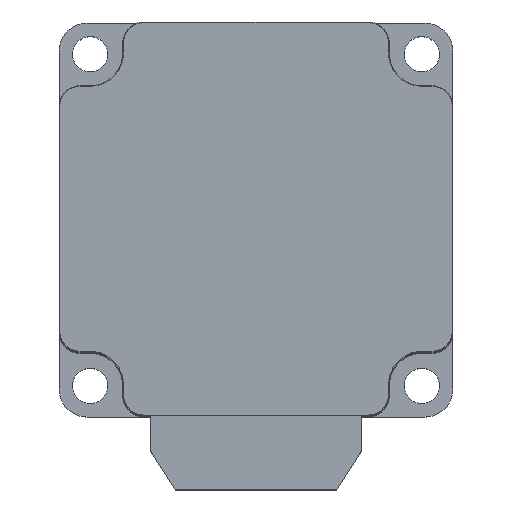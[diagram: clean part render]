
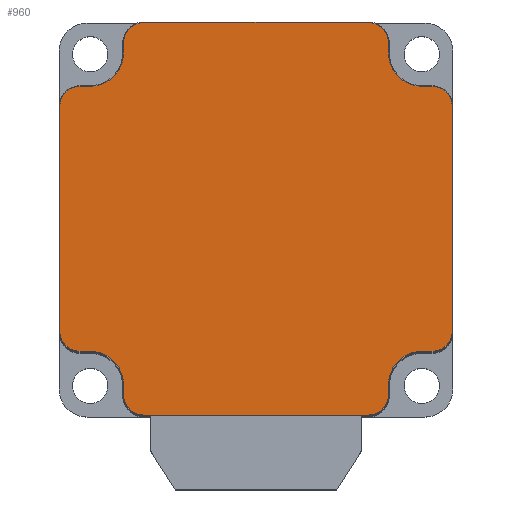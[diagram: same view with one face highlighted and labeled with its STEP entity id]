
A CAD part, top view. The second image highlights one B-rep face of the part: STEP entity #960.
In plain terms, the highlighted planar face has unit normal (0, 0, 1).
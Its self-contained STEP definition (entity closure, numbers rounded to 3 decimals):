
#960=ADVANCED_FACE('',(#2006),#2008,.T.);
#2006=FACE_BOUND('',#2007,.T.);
#2007=EDGE_LOOP('',(#2812,#2813,#2814,#2815,#2816,#2817,#2818,#2819,#2820,#2821,
#2822,#2823,#2824,#2825,#2826,#2827,#2828,#2829,#2830,#2831,#2832,#2833,#2834,#2835));
#2008=PLANE('',#2009);
#2009=AXIS2_PLACEMENT_3D('',#2010,#2011,#2012);
#2010=CARTESIAN_POINT('',(0.,0.,116.));
#2011=DIRECTION('',(0.,-0.,1.));
#2012=DIRECTION('',(0.,1.,0.));
#2812=ORIENTED_EDGE('',*,*,#3231,.T.);
#2813=ORIENTED_EDGE('',*,*,#3277,.T.);
#2814=ORIENTED_EDGE('',*,*,#3275,.T.);
#2815=ORIENTED_EDGE('',*,*,#3273,.T.);
#2816=ORIENTED_EDGE('',*,*,#3271,.T.);
#2817=ORIENTED_EDGE('',*,*,#3269,.T.);
#2818=ORIENTED_EDGE('',*,*,#3267,.T.);
#2819=ORIENTED_EDGE('',*,*,#3265,.T.);
#2820=ORIENTED_EDGE('',*,*,#3263,.T.);
#2821=ORIENTED_EDGE('',*,*,#3261,.T.);
#2822=ORIENTED_EDGE('',*,*,#3259,.T.);
#2823=ORIENTED_EDGE('',*,*,#3257,.T.);
#2824=ORIENTED_EDGE('',*,*,#3255,.T.);
#2825=ORIENTED_EDGE('',*,*,#3253,.T.);
#2826=ORIENTED_EDGE('',*,*,#3251,.T.);
#2827=ORIENTED_EDGE('',*,*,#3249,.T.);
#2828=ORIENTED_EDGE('',*,*,#3247,.T.);
#2829=ORIENTED_EDGE('',*,*,#3245,.T.);
#2830=ORIENTED_EDGE('',*,*,#3243,.T.);
#2831=ORIENTED_EDGE('',*,*,#3241,.T.);
#2832=ORIENTED_EDGE('',*,*,#3239,.T.);
#2833=ORIENTED_EDGE('',*,*,#3237,.T.);
#2834=ORIENTED_EDGE('',*,*,#3235,.T.);
#2835=ORIENTED_EDGE('',*,*,#3233,.T.);
#3231=EDGE_CURVE('',#3743,#3741,#3744,.T.);
#3233=EDGE_CURVE('',#3746,#3743,#3747,.T.);
#3235=EDGE_CURVE('',#3749,#3746,#3750,.T.);
#3237=EDGE_CURVE('',#3752,#3749,#3753,.T.);
#3239=EDGE_CURVE('',#3755,#3752,#3756,.T.);
#3241=EDGE_CURVE('',#3758,#3755,#3759,.T.);
#3243=EDGE_CURVE('',#3761,#3758,#3762,.T.);
#3245=EDGE_CURVE('',#3764,#3761,#3765,.T.);
#3247=EDGE_CURVE('',#3767,#3764,#3768,.T.);
#3249=EDGE_CURVE('',#3770,#3767,#3771,.T.);
#3251=EDGE_CURVE('',#3773,#3770,#3774,.T.);
#3253=EDGE_CURVE('',#3776,#3773,#3777,.T.);
#3255=EDGE_CURVE('',#3779,#3776,#3780,.T.);
#3257=EDGE_CURVE('',#3782,#3779,#3783,.T.);
#3259=EDGE_CURVE('',#3785,#3782,#3786,.T.);
#3261=EDGE_CURVE('',#3788,#3785,#3789,.T.);
#3263=EDGE_CURVE('',#3791,#3788,#3792,.T.);
#3265=EDGE_CURVE('',#3794,#3791,#3795,.T.);
#3267=EDGE_CURVE('',#3797,#3794,#3798,.T.);
#3269=EDGE_CURVE('',#3800,#3797,#3801,.T.);
#3271=EDGE_CURVE('',#3803,#3800,#3804,.T.);
#3273=EDGE_CURVE('',#3806,#3803,#3807,.T.);
#3275=EDGE_CURVE('',#3809,#3806,#3810,.T.);
#3277=EDGE_CURVE('',#3741,#3809,#3812,.T.);
#3741=VERTEX_POINT('',#4882);
#3743=VERTEX_POINT('',#4886);
#3744=CIRCLE('',#4887,2.9);
#3746=VERTEX_POINT('',#4894);
#3747=LINE('',#4895,#4896);
#3749=VERTEX_POINT('',#4901);
#3750=CIRCLE('',#4902,2.9);
#3752=VERTEX_POINT('',#4909);
#3753=LINE('',#4910,#4911);
#3755=VERTEX_POINT('',#4916);
#3756=CIRCLE('',#4917,4.73);
#3758=VERTEX_POINT('',#4924);
#3759=LINE('',#4925,#4926);
#3761=VERTEX_POINT('',#4931);
#3762=CIRCLE('',#4932,2.9);
#3764=VERTEX_POINT('',#4939);
#3765=LINE('',#4940,#4941);
#3767=VERTEX_POINT('',#4946);
#3768=CIRCLE('',#4947,2.9);
#3770=VERTEX_POINT('',#4954);
#3771=LINE('',#4955,#4956);
#3773=VERTEX_POINT('',#4961);
#3774=CIRCLE('',#4962,4.73);
#3776=VERTEX_POINT('',#4969);
#3777=LINE('',#4970,#4971);
#3779=VERTEX_POINT('',#4976);
#3780=CIRCLE('',#4977,2.9);
#3782=VERTEX_POINT('',#4984);
#3783=LINE('',#4985,#4986);
#3785=VERTEX_POINT('',#4991);
#3786=CIRCLE('',#4992,2.9);
#3788=VERTEX_POINT('',#4999);
#3789=LINE('',#5000,#5001);
#3791=VERTEX_POINT('',#5006);
#3792=CIRCLE('',#5007,4.73);
#3794=VERTEX_POINT('',#5014);
#3795=LINE('',#5015,#5016);
#3797=VERTEX_POINT('',#5021);
#3798=CIRCLE('',#5022,2.9);
#3800=VERTEX_POINT('',#5029);
#3801=LINE('',#5030,#5031);
#3803=VERTEX_POINT('',#5036);
#3804=CIRCLE('',#5037,2.9);
#3806=VERTEX_POINT('',#5044);
#3807=LINE('',#5045,#5046);
#3809=VERTEX_POINT('',#5051);
#3810=CIRCLE('',#5052,4.73);
#3812=LINE('',#5059,#5060);
#4882=CARTESIAN_POINT('',(-25.,-18.84,116.));
#4886=CARTESIAN_POINT('',(-27.9,-15.94,116.));
#4887=AXIS2_PLACEMENT_3D('',#4888,#4889,#4890);
#4888=CARTESIAN_POINT('',(-25.,-15.94,116.));
#4889=DIRECTION('',(0.,-0.,1.));
#4890=DIRECTION('',(-1.,0.,0.));
#4894=CARTESIAN_POINT('',(-27.9,15.94,116.));
#4895=CARTESIAN_POINT('',(-27.9,15.94,116.));
#4896=VECTOR('',#4897,1.);
#4897=DIRECTION('',(0.,-1.,0.));
#4901=CARTESIAN_POINT('',(-25.,18.84,116.));
#4902=AXIS2_PLACEMENT_3D('',#4903,#4904,#4905);
#4903=CARTESIAN_POINT('',(-25.,15.94,116.));
#4904=DIRECTION('',(0.,-0.,1.));
#4905=DIRECTION('',(0.,1.,0.));
#4909=CARTESIAN_POINT('',(-23.57,18.84,116.));
#4910=CARTESIAN_POINT('',(-23.57,18.84,116.));
#4911=VECTOR('',#4912,1.);
#4912=DIRECTION('',(-1.,0.,0.));
#4916=CARTESIAN_POINT('',(-18.84,23.57,116.));
#4917=AXIS2_PLACEMENT_3D('',#4918,#4919,#4920);
#4918=CARTESIAN_POINT('',(-23.57,23.57,116.));
#4919=DIRECTION('',(0.,0.,-1.));
#4920=DIRECTION('',(1.,0.,0.));
#4924=CARTESIAN_POINT('',(-18.84,25.,116.));
#4925=CARTESIAN_POINT('',(-18.84,25.,116.));
#4926=VECTOR('',#4927,1.);
#4927=DIRECTION('',(0.,-1.,0.));
#4931=CARTESIAN_POINT('',(-15.94,27.9,116.));
#4932=AXIS2_PLACEMENT_3D('',#4933,#4934,#4935);
#4933=CARTESIAN_POINT('',(-15.94,25.,116.));
#4934=DIRECTION('',(0.,-0.,1.));
#4935=DIRECTION('',(0.,1.,0.));
#4939=CARTESIAN_POINT('',(15.94,27.9,116.));
#4940=CARTESIAN_POINT('',(15.94,27.9,116.));
#4941=VECTOR('',#4942,1.);
#4942=DIRECTION('',(-1.,0.,0.));
#4946=CARTESIAN_POINT('',(18.84,25.,116.));
#4947=AXIS2_PLACEMENT_3D('',#4948,#4949,#4950);
#4948=CARTESIAN_POINT('',(15.94,25.,116.));
#4949=DIRECTION('',(0.,-0.,1.));
#4950=DIRECTION('',(1.,0.,0.));
#4954=CARTESIAN_POINT('',(18.84,23.57,116.));
#4955=CARTESIAN_POINT('',(18.84,23.57,116.));
#4956=VECTOR('',#4957,1.);
#4957=DIRECTION('',(0.,1.,0.));
#4961=CARTESIAN_POINT('',(23.57,18.84,116.));
#4962=AXIS2_PLACEMENT_3D('',#4963,#4964,#4965);
#4963=CARTESIAN_POINT('',(23.57,23.57,116.));
#4964=DIRECTION('',(-0.,0.,-1.));
#4965=DIRECTION('',(0.,-1.,0.));
#4969=CARTESIAN_POINT('',(25.,18.84,116.));
#4970=CARTESIAN_POINT('',(25.,18.84,116.));
#4971=VECTOR('',#4972,1.);
#4972=DIRECTION('',(-1.,0.,0.));
#4976=CARTESIAN_POINT('',(27.9,15.94,116.));
#4977=AXIS2_PLACEMENT_3D('',#4978,#4979,#4980);
#4978=CARTESIAN_POINT('',(25.,15.94,116.));
#4979=DIRECTION('',(0.,-0.,1.));
#4980=DIRECTION('',(1.,0.,0.));
#4984=CARTESIAN_POINT('',(27.9,-15.94,116.));
#4985=CARTESIAN_POINT('',(27.9,-15.94,116.));
#4986=VECTOR('',#4987,1.);
#4987=DIRECTION('',(0.,1.,0.));
#4991=CARTESIAN_POINT('',(25.,-18.84,116.));
#4992=AXIS2_PLACEMENT_3D('',#4993,#4994,#4995);
#4993=CARTESIAN_POINT('',(25.,-15.94,116.));
#4994=DIRECTION('',(0.,-0.,1.));
#4995=DIRECTION('',(0.,-1.,0.));
#4999=CARTESIAN_POINT('',(23.57,-18.84,116.));
#5000=CARTESIAN_POINT('',(23.57,-18.84,116.));
#5001=VECTOR('',#5002,1.);
#5002=DIRECTION('',(1.,0.,0.));
#5006=CARTESIAN_POINT('',(18.84,-23.57,116.));
#5007=AXIS2_PLACEMENT_3D('',#5008,#5009,#5010);
#5008=CARTESIAN_POINT('',(23.57,-23.57,116.));
#5009=DIRECTION('',(-0.,0.,-1.));
#5010=DIRECTION('',(-1.,0.,0.));
#5014=CARTESIAN_POINT('',(18.84,-25.,116.));
#5015=CARTESIAN_POINT('',(18.84,-25.,116.));
#5016=VECTOR('',#5017,1.);
#5017=DIRECTION('',(0.,1.,0.));
#5021=CARTESIAN_POINT('',(15.94,-27.9,116.));
#5022=AXIS2_PLACEMENT_3D('',#5023,#5024,#5025);
#5023=CARTESIAN_POINT('',(15.94,-25.,116.));
#5024=DIRECTION('',(0.,-0.,1.));
#5025=DIRECTION('',(0.,-1.,0.));
#5029=CARTESIAN_POINT('',(-15.94,-27.9,116.));
#5030=CARTESIAN_POINT('',(-15.94,-27.9,116.));
#5031=VECTOR('',#5032,1.);
#5032=DIRECTION('',(1.,0.,0.));
#5036=CARTESIAN_POINT('',(-18.84,-25.,116.));
#5037=AXIS2_PLACEMENT_3D('',#5038,#5039,#5040);
#5038=CARTESIAN_POINT('',(-15.94,-25.,116.));
#5039=DIRECTION('',(0.,-0.,1.));
#5040=DIRECTION('',(-1.,0.,0.));
#5044=CARTESIAN_POINT('',(-18.84,-23.57,116.));
#5045=CARTESIAN_POINT('',(-18.84,-23.57,116.));
#5046=VECTOR('',#5047,1.);
#5047=DIRECTION('',(0.,-1.,0.));
#5051=CARTESIAN_POINT('',(-23.57,-18.84,116.));
#5052=AXIS2_PLACEMENT_3D('',#5053,#5054,#5055);
#5053=CARTESIAN_POINT('',(-23.57,-23.57,116.));
#5054=DIRECTION('',(0.,0.,-1.));
#5055=DIRECTION('',(0.,1.,0.));
#5059=CARTESIAN_POINT('',(-25.,-18.84,116.));
#5060=VECTOR('',#5061,1.);
#5061=DIRECTION('',(1.,0.,0.));
